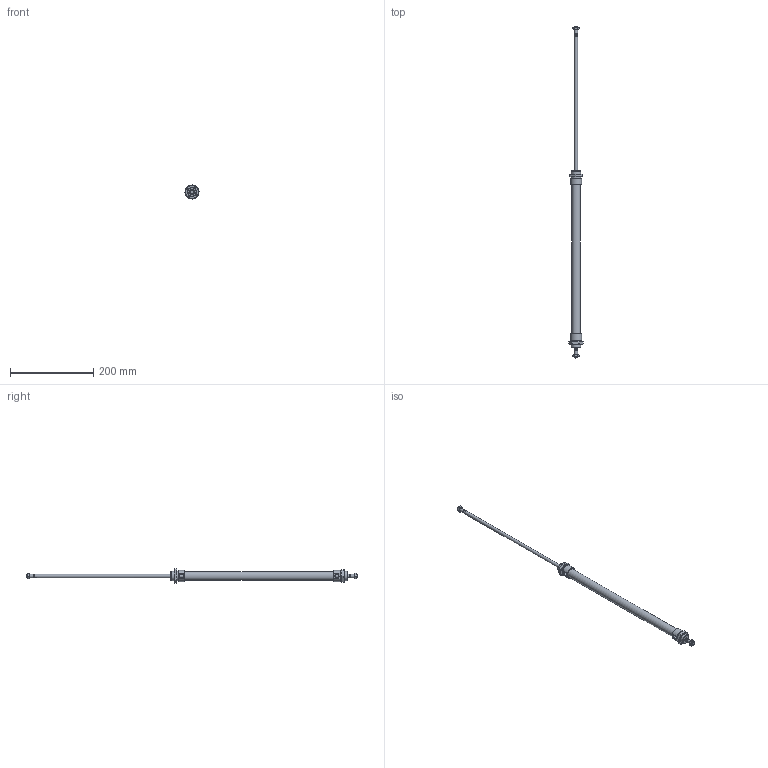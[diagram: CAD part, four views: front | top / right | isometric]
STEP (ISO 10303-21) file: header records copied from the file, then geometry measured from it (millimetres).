
FILE_DESCRIPTION((''),'2;1');
FILE_NAME('I:\Area Tecnica\Disegni\VARIE-3D\Componenti\1280\1282_##_####_#\1282_20_0320.iam.stp','2009-06-03T15:26:16',(''),(''),'Autodesk Inventor 2010','Autodesk Inventor 2010','');
FILE_SCHEMA(('AUTOMOTIVE_DESIGN { 1 0 10303 214 1 1 1 1 }'));
Length unit declared in the file: millimetre
Products named in the file (5): 1282_20_0320; C1282_20_320; S1282_20_320; 1200_20_05; 1200_20_06
Assembly tree (6 placements, depth 2):
  1282_20_0320
    C1282_20_320
    S1282_20_320
    1200_20_05  x2
    1200_20_06  x2
Bounding box: 34.64 x 796 x 34.64 mm (x, y, z)
Volume: 181710.2 mm3; surface area: 66230.2 mm2
Topology: 6 solids, 6 shells, 141 faces, 309 edges, 184 vertices
Faces by surface type: plane 60, cone 52, bspline 18, cylinder 11
Full cylindrical faces by diameter (mm): 6.5 x2, 8 x4, 21.2 x1, 22 x2
Entity records: 2813 total; most frequent: CARTESIAN_POINT 727, DIRECTION 386, ORIENTED_EDGE 352, EDGE_CURVE 176, AXIS2_PLACEMENT_3D 169, EDGE_LOOP 132, VERTEX_POINT 116, STYLED_ITEM 99
